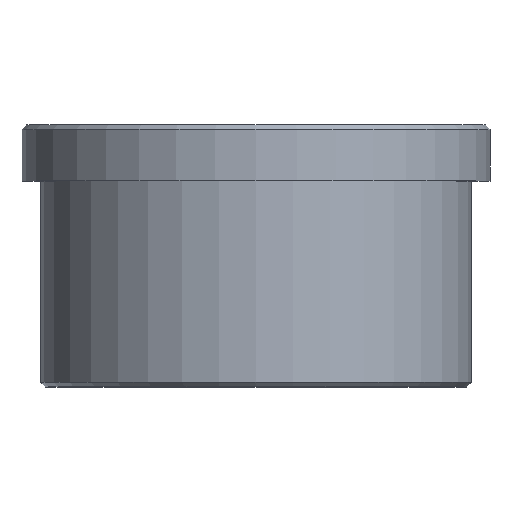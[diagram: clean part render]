
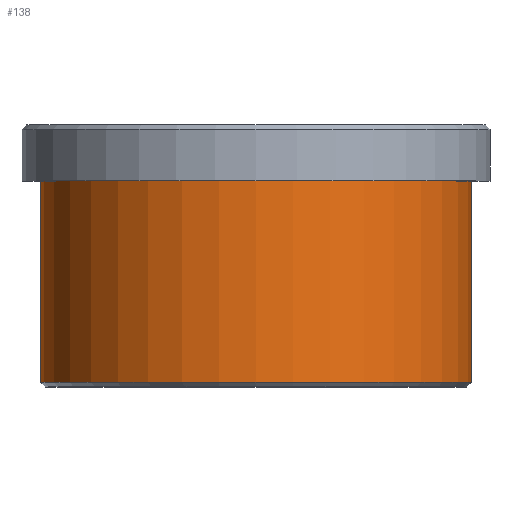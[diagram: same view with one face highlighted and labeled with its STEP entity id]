
A CAD part, top view. The second image highlights one B-rep face of the part: STEP entity #138.
In plain terms, the highlighted cylindrical face has radius 23 mm (diameter 46 mm), a full revolution.
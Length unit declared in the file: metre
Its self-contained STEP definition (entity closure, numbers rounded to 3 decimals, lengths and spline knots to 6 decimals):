
#138=ADVANCED_FACE('',(#295,#296),#297,.T.);
#295=FACE_OUTER_BOUND('',#498,.T.);
#296=FACE_OUTER_BOUND('',#499,.T.);
#297=CYLINDRICAL_SURFACE('',#500,0.023);
#498=EDGE_LOOP('',(#762));
#499=EDGE_LOOP('',(#763));
#500=AXIS2_PLACEMENT_3D('',#764,#765,#766);
#762=ORIENTED_EDGE('',*,*,#1060,.F.);
#763=ORIENTED_EDGE('',*,*,#1074,.T.);
#764=CARTESIAN_POINT('',(0.0,0.029334,0.0));
#765=DIRECTION('',(-0.0,-1.0,-0.0));
#766=DIRECTION('',(0.0,0.0,1.0));
#1060=EDGE_CURVE('',#1234,#1234,#1235,.T.);
#1074=EDGE_CURVE('',#1251,#1251,#1252,.T.);
#1234=VERTEX_POINT('',#1516);
#1235=CIRCLE('',#1517,0.023);
#1251=VERTEX_POINT('',#1539);
#1252=CIRCLE('',#1540,0.023);
#1516=CARTESIAN_POINT('',(0.0,0.008,0.023));
#1517=AXIS2_PLACEMENT_3D('',#1726,#1727,#1728);
#1539=CARTESIAN_POINT('',(0.0,-0.0135,0.023));
#1540=AXIS2_PLACEMENT_3D('',#1741,#1742,#1743);
#1726=CARTESIAN_POINT('',(0.0,0.008,0.0));
#1727=DIRECTION('',(0.0,1.0,0.0));
#1728=DIRECTION('',(0.0,0.0,1.0));
#1741=CARTESIAN_POINT('',(0.0,-0.0135,0.0));
#1742=DIRECTION('',(0.0,1.0,0.0));
#1743=DIRECTION('',(0.0,0.0,1.0));
